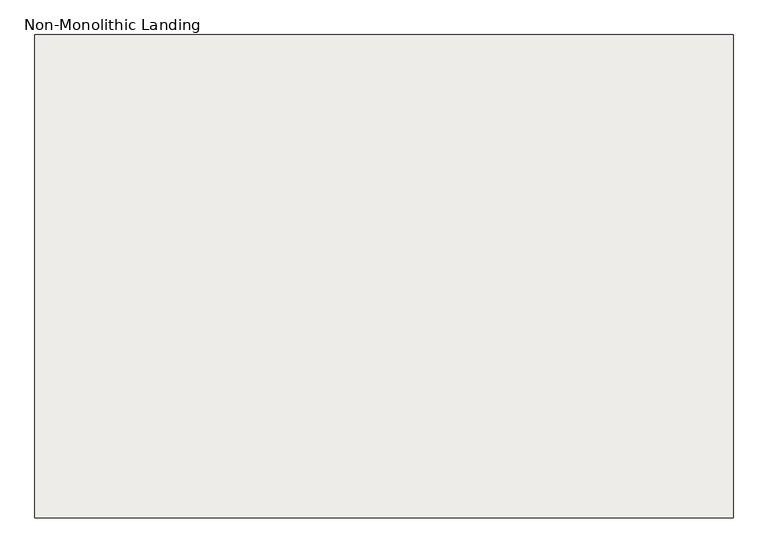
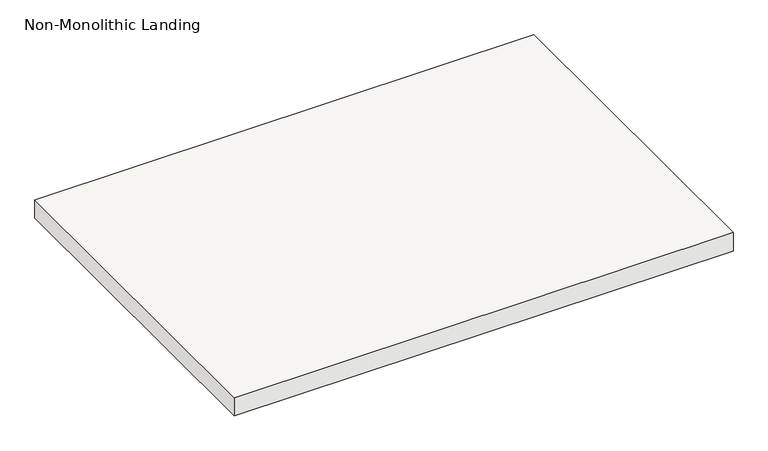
"""IFC4 building model written with IfcOpenShell, lengths in millimetres: slab geometry, Non-Monolithic Landing."""

import ifcopenshell
import ifcopenshell.guid

model = None  # the IFC model being written
_history = None  # IfcOwnerHistory: only IFC2X3 demands one
_inside = {}  # id of a spatial element -> (the spatial element, [elements in it])
_under = {}  # id of a project, library or spatial element -> (it, [spatial elements below it])
_declared = {}  # id of a project -> (the project, [libraries it declares])
_typed = {}  # id of a type object -> (the type object, [elements of that type])
_made_of = {}  # id of a material, layer set ... -> (it, [elements and type objects made of it])


def new_model(schema):
    """Start an empty IFC model of exactly this schema.

    Asked for "IFC4X3", IfcOpenShell would pick the latest addendum, in which some entities
    have other attributes; the version numbers below select the first issue.
    IFC2X3 requires an IfcOwnerHistory on every rooted entity: one is made here for all.
    """
    global model, _history
    if schema == "IFC4X3":
        model = ifcopenshell.file(schema_version=(4, 3, 0, 0))
    else:
        model = ifcopenshell.file(schema=schema)
    _inside.clear()
    _under.clear()
    _declared.clear()
    _typed.clear()
    _made_of.clear()
    _history = None
    if model.schema == "IFC2X3":
        org = make("IfcOrganization", Name="unknown")
        user = make(
            "IfcPersonAndOrganization",
            ThePerson=make("IfcPerson", FamilyName="unknown"),
            TheOrganization=org,
        )
        app = make(
            "IfcApplication",
            ApplicationDeveloper=org,
            Version="unknown",
            ApplicationFullName="unknown",
            ApplicationIdentifier="unknown",
        )
        _history = make(
            "IfcOwnerHistory",
            OwningUser=user,
            OwningApplication=app,
            ChangeAction="ADDED",
            CreationDate=0,
        )
    return model


def make(cls, **values):
    """One entity of the class cls with the attributes given. An attribute that is None is left unset."""
    return model.create_entity(
        cls, **{name: value for name, value in values.items() if value is not None}
    )


def rooted(cls, **values):
    """An entity with a GlobalId (a new one), such as an element, a storey or a relation."""
    return make(cls, GlobalId=ifcopenshell.guid.new(), OwnerHistory=_history, **values)


def si_unit(unit_type, name, prefix=None):
    """IfcSIUnit, for example si_unit("LENGTHUNIT", "METRE", prefix="MILLI")."""
    return make("IfcSIUnit", UnitType=unit_type, Prefix=prefix, Name=name)


def assignment(units):
    """IfcUnitAssignment: the units of a project."""
    return None if units is None else make("IfcUnitAssignment", Units=units)


def point(xyz):
    """IfcCartesianPoint."""
    return None if xyz is None else make("IfcCartesianPoint", Coordinates=xyz)


def direction(xyz):
    """IfcDirection."""
    return None if xyz is None else make("IfcDirection", DirectionRatios=xyz)


def frame(location, z_axis=None, x_axis=None):
    """IfcAxis2Placement3D, a coordinate frame: its origin and axes. An axis left out is left unset."""
    return make(
        "IfcAxis2Placement3D",
        Location=point(location),
        Axis=direction(z_axis),
        RefDirection=direction(x_axis),
    )


def origin():
    """The frame at (0, 0, 0) with its axes left unset."""
    return frame((0.0, 0.0, 0.0))


def place(relative_to, where):
    """IfcLocalPlacement: puts the frame where relative to a parent placement (None: the world)."""
    return make(
        "IfcLocalPlacement", PlacementRelTo=relative_to, RelativePlacement=where
    )


def context(
    kind, dimensions, precision=None, world=None, true_north=None, identifier=None
):
    """IfcGeometricRepresentationContext, for example the 3D "Model" context."""
    return make(
        "IfcGeometricRepresentationContext",
        ContextIdentifier=identifier,
        ContextType=kind,
        CoordinateSpaceDimension=dimensions,
        Precision=precision,
        WorldCoordinateSystem=world,
        TrueNorth=true_north,
    )


def project(units=None, contexts=None):
    """IfcProject with its units and contexts."""
    return rooted(
        "IfcProject",
        Name="project",
        RepresentationContexts=contexts,
        UnitsInContext=assignment(units),
    )


def spatial(cls, under=None, at=None, **own):
    """A site, building, storey or space (cls), placed at a placement, below another one or the project."""
    s = rooted(cls, ObjectPlacement=at, **own)
    if under is not None:
        _under.setdefault(under.id(), (under, []))[1].append(s)
    return s


def polyline(points):
    """IfcPolyline through the points."""
    return make("IfcPolyline", Points=[point(p) for p in points])


def outline(outer, holes=None, kind="AREA"):
    """IfcArbitraryClosedProfileDef: a profile drawn as a closed curve; with holes, ...WithVoids."""
    if holes is None:
        return make("IfcArbitraryClosedProfileDef", ProfileType=kind, OuterCurve=outer)
    return make(
        "IfcArbitraryProfileDefWithVoids",
        ProfileType=kind,
        OuterCurve=outer,
        InnerCurves=holes,
    )


def extrude(swept, where, along, depth):
    """IfcExtrudedAreaSolid: the profile swept, set in the frame where, extruded along a direction by depth."""
    return make(
        "IfcExtrudedAreaSolid",
        SweptArea=swept,
        Position=where,
        ExtrudedDirection=direction(along),
        Depth=depth,
    )


def shape(context_of_items, identifier, shape_type, items):
    """IfcShapeRepresentation: the items that make up one representation, for example the "Body"."""
    return make(
        "IfcShapeRepresentation",
        ContextOfItems=context_of_items,
        RepresentationIdentifier=identifier,
        RepresentationType=shape_type,
        Items=items,
    )


def source(mapping_origin, context_of_items, identifier, shape_type, items):
    """IfcRepresentationMap: a shape defined once, which mapped items show again and again."""
    return make(
        "IfcRepresentationMap",
        MappingOrigin=mapping_origin,
        MappedRepresentation=shape(context_of_items, identifier, shape_type, items),
    )


def transform(
    local_origin,
    x_axis=None,
    y_axis=None,
    z_axis=None,
    scale=None,
    scale2=None,
    scale3=None,
    uniform=True,
):
    """IfcCartesianTransformationOperator3D, or its non-uniform kind. x_axis, y_axis, z_axis: its Axis1, 2, 3."""
    if uniform:
        return make(
            "IfcCartesianTransformationOperator3D",
            Axis1=direction(x_axis),
            Axis2=direction(y_axis),
            LocalOrigin=point(local_origin),
            Scale=scale,
            Axis3=direction(z_axis),
        )
    return make(
        "IfcCartesianTransformationOperator3DnonUniform",
        Axis1=direction(x_axis),
        Axis2=direction(y_axis),
        LocalOrigin=point(local_origin),
        Scale=scale,
        Axis3=direction(z_axis),
        Scale2=scale2,
        Scale3=scale3,
    )


def mapped(mapping_source, mapping_target):
    """IfcMappedItem: shows the shape of a source again, moved by a transform."""
    return make(
        "IfcMappedItem", MappingSource=mapping_source, MappingTarget=mapping_target
    )


def made_of(thing, what):
    """Note that an element or type object is made of a material, layer set ...; save() writes the relation."""
    if what is not None:
        _made_of.setdefault(what.id(), (what, []))[1].append(thing)
    return thing


def element(
    cls,
    number,
    at=None,
    inside=None,
    cuts=None,
    type_object=None,
    material=None,
    context=None,
    identifier="Body",
    shape_type=None,
    held_by="IfcProductDefinitionShape",
    body=None,
    shapes=None,
    **own,
):
    """One element of the class cls, such as IfcWall. Its Tag is "e" and its number.

    at: its placement. inside: the storey or other place that contains it. cuts: it is an
    opening in that element (IfcRelVoidsElement). A single representation is given by context,
    identifier, shape_type and body (its items); several are given by shapes. held_by: the class
    of the entity that holds the representations. save() writes the other relations.
    """
    e = rooted(cls, Tag="e%d" % number, ObjectPlacement=at, **own)
    if body is not None:
        shapes = [shape(context, identifier, shape_type, body)]
    if shapes is not None:
        e.Representation = make(held_by, Representations=shapes)
    if inside is not None:
        _inside.setdefault(inside.id(), (inside, []))[1].append(e)
    if cuts is not None:
        rooted(
            "IfcRelVoidsElement", RelatingBuildingElement=cuts, RelatedOpeningElement=e
        )
    if type_object is not None:
        _typed.setdefault(type_object.id(), (type_object, []))[1].append(e)
    return made_of(e, material)


def aggregate(whole, parts):
    """IfcRelAggregates: a whole, such as a stair, and the parts it consists of."""
    return rooted("IfcRelAggregates", RelatingObject=whole, RelatedObjects=parts)


def save(model, path):
    """Write the relations noted so far, then the file.

    IfcRelAggregates (storeys below a building ...), IfcRelContainedInSpatialStructure (elements
    in a storey), IfcRelDefinesByType, IfcRelAssociatesMaterial and IfcRelDeclares: one each for
    every whole, place, type object, material and project.
    """
    for whole, parts in _under.values():
        aggregate(whole, parts)
    for where, things in _inside.values():
        rooted(
            "IfcRelContainedInSpatialStructure",
            RelatedElements=things,
            RelatingStructure=where,
        )
    for kind, things in _typed.values():
        rooted("IfcRelDefinesByType", RelatedObjects=things, RelatingType=kind)
    for what, things in _made_of.values():
        rooted("IfcRelAssociatesMaterial", RelatedObjects=things, RelatingMaterial=what)
    for by, libraries in _declared.values():
        rooted("IfcRelDeclares", RelatingContext=by, RelatedDefinitions=libraries)
    model.write(path)


def non_monolithic_landing_00edb4bf(model_context):
    return source(origin(), model_context, "Body", "SweptSolid", [
        extrude(outline(polyline([(112302.1786089, -1486.3855758), (113622.9786089, -1486.3855758), (113622.9786089, -2400.7855758), (112302.1786089, -2400.7855758), (112302.1786089, -1486.3855758)])), frame((0.0, 0.0, 2126.3428571), z_axis=(0.0, 0.0, 1.0), x_axis=(1.0, 0.0, 0.0)), (0.0, 0.0, 1.0), 50.8),
    ])


if __name__ == "__main__":
    model = new_model("IFC4")
    model_context = context("Model", 3, world=origin())
    ifc_project = project(units=[si_unit("LENGTHUNIT", "METRE", prefix="MILLI")], contexts=[model_context])
    site = spatial("IfcSite", under=ifc_project)
    building = spatial("IfcBuilding", under=site)
    placement = place(None, origin())
    non_monolithic_landing_shape = non_monolithic_landing_00edb4bf(model_context)
    element("IfcSlab", 1, ObjectType="Non-Monolithic Landing", at=placement, inside=building, context=model_context, shape_type="MappedRepresentation", body=[
        mapped(non_monolithic_landing_shape, transform((0.0, 0.0, 0.0), x_axis=(1.0, 0.0, 0.0), y_axis=(0.0, 1.0, 0.0), z_axis=(0.0, 0.0, 1.0))),
    ])
    save(model, "model.ifc")
